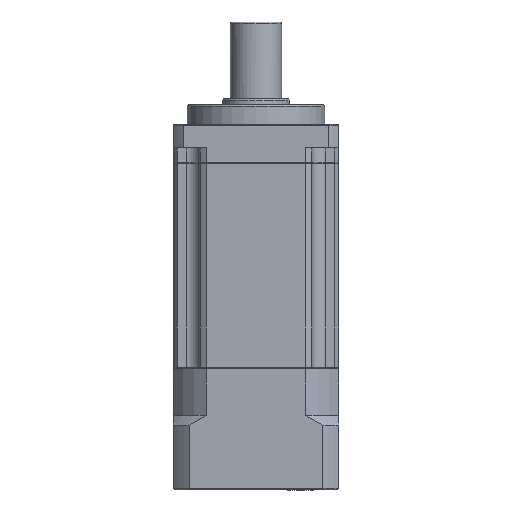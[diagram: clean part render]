
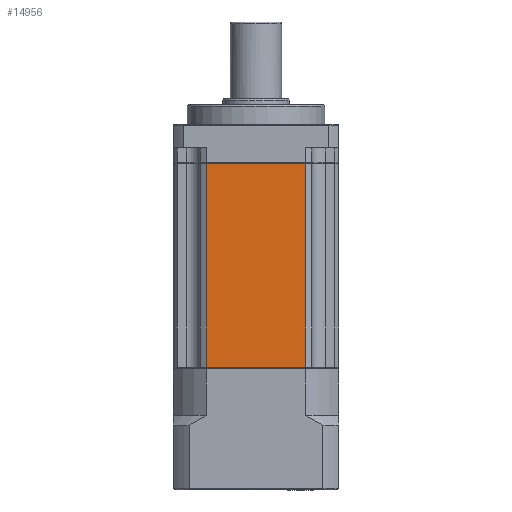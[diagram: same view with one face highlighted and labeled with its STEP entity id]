
A CAD part, front view. The second image highlights one B-rep face of the part: STEP entity #14956.
In plain terms, the highlighted planar face has unit normal (0, -1, 0).
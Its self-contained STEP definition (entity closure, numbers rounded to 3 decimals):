
#5458 = EDGE_CURVE ( 'NONE', #76635, #105634, #64221, .T. ) ;
#10039 = DIRECTION ( 'NONE',  ( 1., 0., 0. ) ) ;
#10353 = ORIENTED_EDGE ( 'NONE', *, *, #11389, .F. ) ;
#11389 = EDGE_CURVE ( 'NONE', #123245, #100798, #44608, .T. ) ;
#14956 = ADVANCED_FACE ( 'NONE', ( #49689 ), #79986, .F. ) ;
#15540 = ORIENTED_EDGE ( 'NONE', *, *, #120391, .F. ) ;
#17055 = CARTESIAN_POINT ( 'NONE',  ( 31.111, 3.541, 83.744 ) ) ;
#18772 = DIRECTION ( 'NONE',  ( 0., 1., 0. ) ) ;
#21895 = DIRECTION ( 'NONE',  ( 0., 0., -1. ) ) ;
#23820 = CARTESIAN_POINT ( 'NONE',  ( 31.111, 3.541, 135.494 ) ) ;
#24654 = EDGE_CURVE ( 'NONE', #105634, #123245, #34112, .T. ) ;
#31714 = VECTOR ( 'NONE', #58046, 1000. ) ;
#34112 = LINE ( 'NONE', #102070, #90771 ) ;
#38612 = CARTESIAN_POINT ( 'NONE',  ( 5.872, 3.541, 135.494 ) ) ;
#40370 = DIRECTION ( 'NONE',  ( 0., 0., 1. ) ) ;
#44608 = LINE ( 'NONE', #127968, #31714 ) ;
#49689 = FACE_OUTER_BOUND ( 'NONE', #104754, .T. ) ;
#51197 = AXIS2_PLACEMENT_3D ( 'NONE', #129721, #18772, #69493 ) ;
#58046 = DIRECTION ( 'NONE',  ( -1., 0., 0. ) ) ;
#64221 = LINE ( 'NONE', #130706, #67393 ) ;
#67393 = VECTOR ( 'NONE', #10039, 1000. ) ;
#69493 = DIRECTION ( 'NONE',  ( -1., 0., 0. ) ) ;
#76635 = VERTEX_POINT ( 'NONE', #38612 ) ;
#79986 = PLANE ( 'NONE',  #51197 ) ;
#82109 = CARTESIAN_POINT ( 'NONE',  ( 5.872, 3.541, 83.494 ) ) ;
#88885 = ORIENTED_EDGE ( 'NONE', *, *, #24654, .F. ) ;
#90771 = VECTOR ( 'NONE', #21895, 1000. ) ;
#100056 = VECTOR ( 'NONE', #40370, 1000. ) ;
#100798 = VERTEX_POINT ( 'NONE', #118275 ) ;
#102070 = CARTESIAN_POINT ( 'NONE',  ( 31.111, 3.541, 83.494 ) ) ;
#104754 = EDGE_LOOP ( 'NONE', ( #10353, #88885, #106044, #15540 ) ) ;
#105634 = VERTEX_POINT ( 'NONE', #23820 ) ;
#106044 = ORIENTED_EDGE ( 'NONE', *, *, #5458, .F. ) ;
#118275 = CARTESIAN_POINT ( 'NONE',  ( 5.872, 3.541, 83.744 ) ) ;
#118950 = LINE ( 'NONE', #82109, #100056 ) ;
#120391 = EDGE_CURVE ( 'NONE', #100798, #76635, #118950, .T. ) ;
#123245 = VERTEX_POINT ( 'NONE', #17055 ) ;
#127968 = CARTESIAN_POINT ( 'NONE',  ( 36.169, 3.541, 83.744 ) ) ;
#129721 = CARTESIAN_POINT ( 'NONE',  ( 4.314, 3.541, 83.494 ) ) ;
#130706 = CARTESIAN_POINT ( 'NONE',  ( 4.314, 3.541, 135.494 ) ) ;
